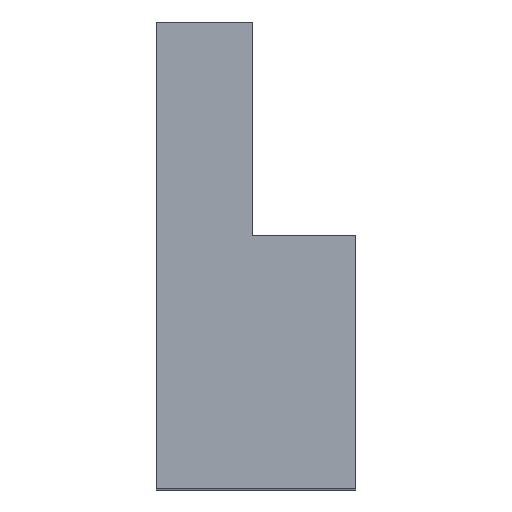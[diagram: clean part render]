
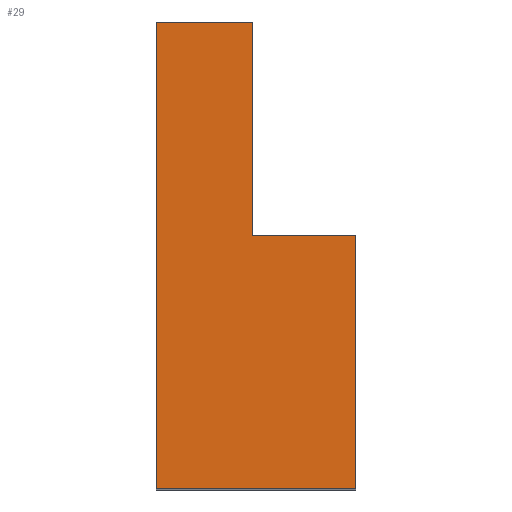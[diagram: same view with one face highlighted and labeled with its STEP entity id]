
A CAD part, top view. The second image highlights one B-rep face of the part: STEP entity #29.
In plain terms, the highlighted planar face has unit normal (0, 0, 1).
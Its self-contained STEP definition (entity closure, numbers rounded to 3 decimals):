
#29=ADVANCED_FACE('',(#45),#579,.T.);
#45=FACE_OUTER_BOUND('',#61,.T.);
#61=EDGE_LOOP('',(#86,#87,#88,#89,#90,#91));
#86=ORIENTED_EDGE('',*,*,#404,.T.);
#87=ORIENTED_EDGE('',*,*,#405,.T.);
#88=ORIENTED_EDGE('',*,*,#406,.T.);
#89=ORIENTED_EDGE('',*,*,#407,.T.);
#90=ORIENTED_EDGE('',*,*,#408,.T.);
#91=ORIENTED_EDGE('',*,*,#409,.T.);
#194=PCURVE('',#579,#278);
#195=PCURVE('',#579,#279);
#196=PCURVE('',#579,#280);
#197=PCURVE('',#579,#281);
#198=PCURVE('',#579,#282);
#199=PCURVE('',#579,#283);
#201=PCURVE('',#580,#285);
#205=PCURVE('',#581,#289);
#218=PCURVE('',#582,#302);
#222=PCURVE('',#583,#306);
#226=PCURVE('',#584,#310);
#237=PCURVE('',#585,#321);
#278=DEFINITIONAL_REPRESENTATION('',(#453),#1083);
#279=DEFINITIONAL_REPRESENTATION('',(#455),#1083);
#280=DEFINITIONAL_REPRESENTATION('',(#457),#1083);
#281=DEFINITIONAL_REPRESENTATION('',(#459),#1083);
#282=DEFINITIONAL_REPRESENTATION('',(#461),#1083);
#283=DEFINITIONAL_REPRESENTATION('',(#463),#1083);
#285=DEFINITIONAL_REPRESENTATION('',(#466),#1083);
#289=DEFINITIONAL_REPRESENTATION('',(#471),#1083);
#302=DEFINITIONAL_REPRESENTATION('',(#485),#1083);
#306=DEFINITIONAL_REPRESENTATION('',(#491),#1083);
#310=DEFINITIONAL_REPRESENTATION('',(#496),#1083);
#321=DEFINITIONAL_REPRESENTATION('',(#507),#1083);
#362=SURFACE_CURVE('',#452,(#194,#222),.PCURVE_S1.);
#363=SURFACE_CURVE('',#454,(#195,#226),.PCURVE_S1.);
#364=SURFACE_CURVE('',#456,(#196,#218),.PCURVE_S1.);
#365=SURFACE_CURVE('',#458,(#197,#205),.PCURVE_S1.);
#366=SURFACE_CURVE('',#460,(#198,#201),.PCURVE_S1.);
#367=SURFACE_CURVE('',#462,(#199,#237),.PCURVE_S1.);
#404=EDGE_CURVE('',#548,#549,#362,.T.);
#405=EDGE_CURVE('',#549,#550,#363,.T.);
#406=EDGE_CURVE('',#550,#551,#364,.T.);
#407=EDGE_CURVE('',#551,#552,#365,.T.);
#408=EDGE_CURVE('',#552,#553,#366,.T.);
#409=EDGE_CURVE('',#553,#548,#367,.T.);
#452=B_SPLINE_CURVE_WITH_KNOTS('',1,(#752,#753),.UNSPECIFIED.,.F.,.F.,(2,
2),(-46.4,-43.3),.UNSPECIFIED.);
#453=B_SPLINE_CURVE_WITH_KNOTS('',1,(#754,#755),.UNSPECIFIED.,.F.,.F.,(2,
2),(-46.4,-43.3),.UNSPECIFIED.);
#454=B_SPLINE_CURVE_WITH_KNOTS('',1,(#756,#757),.UNSPECIFIED.,.F.,.F.,(2,
2),(-43.3,-36.9),.UNSPECIFIED.);
#455=B_SPLINE_CURVE_WITH_KNOTS('',1,(#758,#759),.UNSPECIFIED.,.F.,.F.,(2,
2),(-43.3,-36.9),.UNSPECIFIED.);
#456=B_SPLINE_CURVE_WITH_KNOTS('',1,(#760,#761),.UNSPECIFIED.,.F.,.F.,(2,
2),(-36.9,-34.),.UNSPECIFIED.);
#457=B_SPLINE_CURVE_WITH_KNOTS('',1,(#762,#763),.UNSPECIFIED.,.F.,.F.,(2,
2),(-36.9,-34.),.UNSPECIFIED.);
#458=B_SPLINE_CURVE_WITH_KNOTS('',1,(#764,#765),.UNSPECIFIED.,.F.,.F.,(2,
2),(-34.,-20.),.UNSPECIFIED.);
#459=B_SPLINE_CURVE_WITH_KNOTS('',1,(#766,#767),.UNSPECIFIED.,.F.,.F.,(2,
2),(-34.,-20.),.UNSPECIFIED.);
#460=B_SPLINE_CURVE_WITH_KNOTS('',1,(#768,#769),.UNSPECIFIED.,.F.,.F.,(2,
2),(-20.,-14.),.UNSPECIFIED.);
#461=B_SPLINE_CURVE_WITH_KNOTS('',1,(#770,#771),.UNSPECIFIED.,.F.,.F.,(2,
2),(-20.,-14.),.UNSPECIFIED.);
#462=B_SPLINE_CURVE_WITH_KNOTS('',1,(#772,#773),.UNSPECIFIED.,.F.,.F.,(2,
2),(-14.,-6.4),.UNSPECIFIED.);
#463=B_SPLINE_CURVE_WITH_KNOTS('',1,(#774,#775),.UNSPECIFIED.,.F.,.F.,(2,
2),(-14.,-6.4),.UNSPECIFIED.);
#466=B_SPLINE_CURVE_WITH_KNOTS('',1,(#780,#781),.UNSPECIFIED.,.F.,.F.,(2,
2),(-20.,-14.),.UNSPECIFIED.);
#471=B_SPLINE_CURVE_WITH_KNOTS('',1,(#790,#791),.UNSPECIFIED.,.F.,.F.,(2,
2),(-34.,-20.),.UNSPECIFIED.);
#485=B_SPLINE_CURVE_WITH_KNOTS('',1,(#872,#873),.UNSPECIFIED.,.F.,.F.,(2,
2),(-36.9,-34.),.UNSPECIFIED.);
#491=B_SPLINE_CURVE_WITH_KNOTS('',1,(#884,#885),.UNSPECIFIED.,.F.,.F.,(2,
2),(-46.4,-43.3),.UNSPECIFIED.);
#496=B_SPLINE_CURVE_WITH_KNOTS('',1,(#894,#895),.UNSPECIFIED.,.F.,.F.,(2,
2),(-43.3,-36.9),.UNSPECIFIED.);
#507=B_SPLINE_CURVE_WITH_KNOTS('',1,(#996,#997),.UNSPECIFIED.,.F.,.F.,(2,
2),(-14.,-6.4),.UNSPECIFIED.);
#548=VERTEX_POINT('',#706);
#549=VERTEX_POINT('',#707);
#550=VERTEX_POINT('',#708);
#551=VERTEX_POINT('',#709);
#552=VERTEX_POINT('',#710);
#553=VERTEX_POINT('',#711);
#579=PLANE('',#607);
#580=PLANE('',#608);
#581=PLANE('',#609);
#582=PLANE('',#610);
#583=PLANE('',#611);
#584=PLANE('',#612);
#585=PLANE('',#613);
#607=AXIS2_PLACEMENT_3D('',#629,#618,$);
#608=AXIS2_PLACEMENT_3D('',#630,#619,$);
#609=AXIS2_PLACEMENT_3D('',#631,#620,$);
#610=AXIS2_PLACEMENT_3D('',#632,#621,$);
#611=AXIS2_PLACEMENT_3D('',#633,#622,$);
#612=AXIS2_PLACEMENT_3D('',#634,#623,$);
#613=AXIS2_PLACEMENT_3D('',#635,#624,$);
#618=DIRECTION('',(0.,0.,1.));
#619=DIRECTION('',(0.,-1.,0.));
#620=DIRECTION('',(-1.,0.,0.));
#621=DIRECTION('',(0.,1.,0.));
#622=DIRECTION('',(0.,1.,0.));
#623=DIRECTION('',(1.,0.,0.));
#624=DIRECTION('',(1.,0.,0.));
#629=CARTESIAN_POINT('',(753.96,260.24,12.5));
#630=CARTESIAN_POINT('',(753.9,246.1,-10.5));
#631=CARTESIAN_POINT('',(747.9,246.1,-10.5));
#632=CARTESIAN_POINT('',(747.9,260.1,-10.5));
#633=CARTESIAN_POINT('',(753.9,253.7,-10.5));
#634=CARTESIAN_POINT('',(750.8,253.7,-10.5));
#635=CARTESIAN_POINT('',(753.9,260.1,-10.5));
#706=CARTESIAN_POINT('',(753.9,253.7,12.5));
#707=CARTESIAN_POINT('',(750.8,253.7,12.5));
#708=CARTESIAN_POINT('',(750.8,260.1,12.5));
#709=CARTESIAN_POINT('',(747.9,260.1,12.5));
#710=CARTESIAN_POINT('',(747.9,246.1,12.5));
#711=CARTESIAN_POINT('',(753.9,246.1,12.5));
#752=CARTESIAN_POINT('',(753.9,253.7,12.5));
#753=CARTESIAN_POINT('',(750.8,253.7,12.5));
#754=CARTESIAN_POINT('',(0.,0.));
#755=CARTESIAN_POINT('',(3.1,0.));
#756=CARTESIAN_POINT('',(750.8,253.7,12.5));
#757=CARTESIAN_POINT('',(750.8,260.1,12.5));
#758=CARTESIAN_POINT('',(3.1,0.));
#759=CARTESIAN_POINT('',(3.1,-6.4));
#760=CARTESIAN_POINT('',(750.8,260.1,12.5));
#761=CARTESIAN_POINT('',(747.9,260.1,12.5));
#762=CARTESIAN_POINT('',(3.1,-6.4));
#763=CARTESIAN_POINT('',(6.,-6.4));
#764=CARTESIAN_POINT('',(747.9,260.1,12.5));
#765=CARTESIAN_POINT('',(747.9,246.1,12.5));
#766=CARTESIAN_POINT('',(6.,-6.4));
#767=CARTESIAN_POINT('',(6.,7.6));
#768=CARTESIAN_POINT('',(747.9,246.1,12.5));
#769=CARTESIAN_POINT('',(753.9,246.1,12.5));
#770=CARTESIAN_POINT('',(6.,7.6));
#771=CARTESIAN_POINT('',(0.,7.6));
#772=CARTESIAN_POINT('',(753.9,246.1,12.5));
#773=CARTESIAN_POINT('',(753.9,253.7,12.5));
#774=CARTESIAN_POINT('',(0.,7.6));
#775=CARTESIAN_POINT('',(0.,0.));
#780=CARTESIAN_POINT('',(23.,20.));
#781=CARTESIAN_POINT('',(23.,14.));
#790=CARTESIAN_POINT('',(23.,34.));
#791=CARTESIAN_POINT('',(23.,20.));
#872=CARTESIAN_POINT('',(23.,36.9));
#873=CARTESIAN_POINT('',(23.,34.));
#884=CARTESIAN_POINT('',(6.4,23.));
#885=CARTESIAN_POINT('',(9.5,23.));
#894=CARTESIAN_POINT('',(9.5,23.));
#895=CARTESIAN_POINT('',(15.9,23.));
#996=CARTESIAN_POINT('',(23.,14.));
#997=CARTESIAN_POINT('',(23.,6.4));
#1083=(
GEOMETRIC_REPRESENTATION_CONTEXT(2)
PARAMETRIC_REPRESENTATION_CONTEXT()
REPRESENTATION_CONTEXT('pspace','')
);
